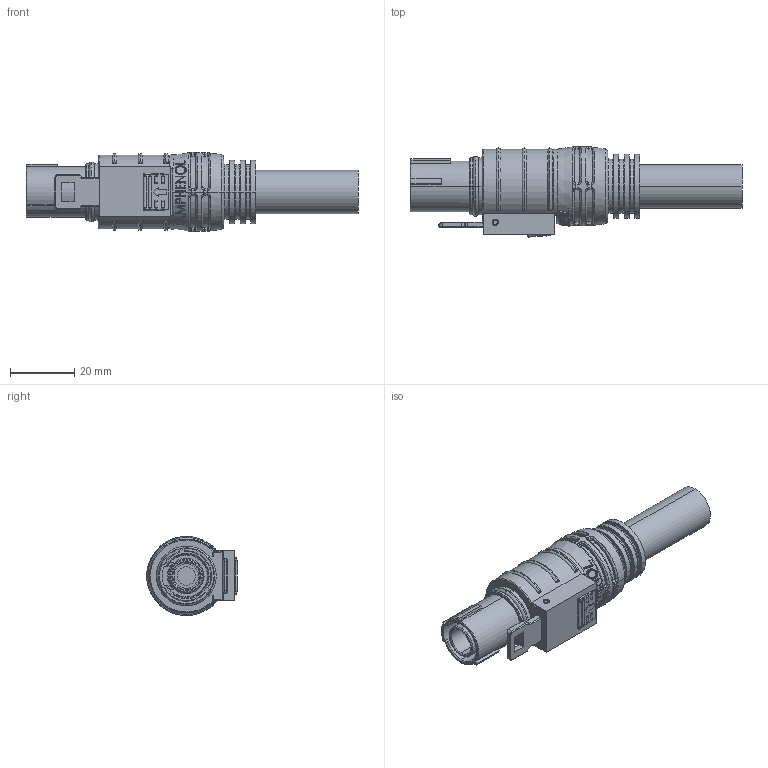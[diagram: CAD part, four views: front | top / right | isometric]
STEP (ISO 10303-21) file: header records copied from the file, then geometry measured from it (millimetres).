
FILE_DESCRIPTION (( 'STEP AP203' ), '1' );
FILE_NAME ('PL10X-121.STEP', '2018-02-07T06:09:58', ( '' ), ( '' ), 'SwSTEP 2.0', 'SolidWorks 2017', '' );
FILE_SCHEMA (( 'CONFIG_CONTROL_DESIGN' ));
Length unit declared in the file: millimetre
Products named in the file (1): PL10X-121
Bounding box: 103.18 x 28.13 x 24.6 mm (x, y, z)
Volume: 29462.2 mm3; surface area: 9415 mm2
Topology: 2 solids, 5 shells, 632 faces, 1579 edges, 995 vertices
Faces by surface type: plane 261, bspline 172, cylinder 136, cone 51, torus 12
Entity records: 23983 total; most frequent: CARTESIAN_POINT 9913, ORIENTED_EDGE 3158, DIRECTION 2619, EDGE_CURVE 1579, VERTEX_POINT 995, AXIS2_PLACEMENT_3D 989, EDGE_LOOP 678, VECTOR 641
